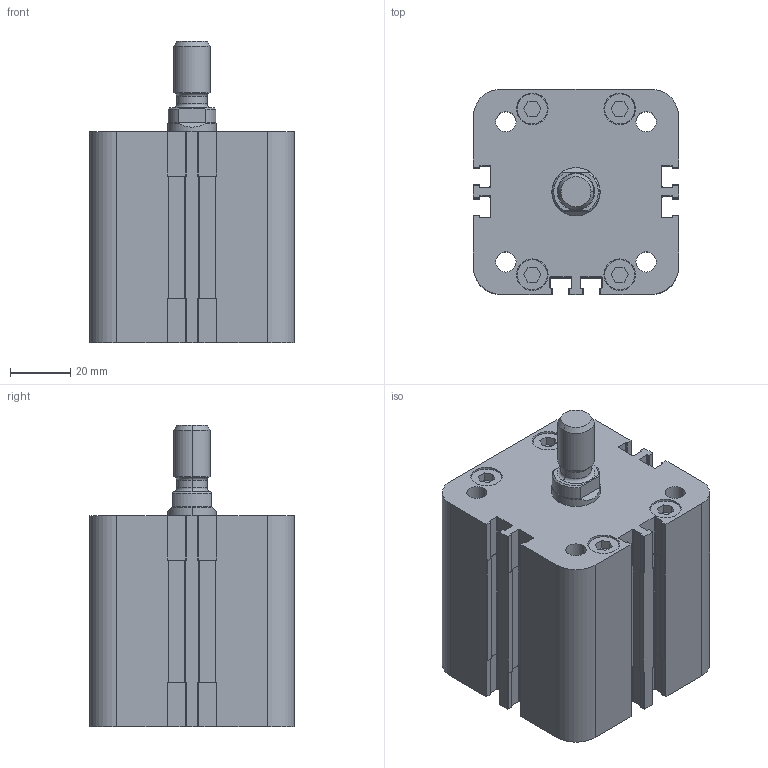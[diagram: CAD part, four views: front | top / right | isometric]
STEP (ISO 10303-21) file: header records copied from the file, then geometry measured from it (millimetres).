
FILE_DESCRIPTION (( 'STEP AP203' ), '1' );
FILE_NAME ('WBM0500025A.step', '2013-04-22T07:06:41', ( '' ), ( '' ), 'SwSTEP 2.0', 'SolidWorks 2012', '' );
FILE_SCHEMA (( 'CONFIG_CONTROL_DESIGN' ));
Length unit declared in the file: millimetre
Products named in the file (1): WBM0500025A
Bounding box: 68 x 68 x 100 mm (x, y, z)
Volume: 294582.5 mm3; surface area: 43373.8 mm2
Topology: 1 solids, 1 shells, 464 faces, 1272 edges, 839 vertices
Faces by surface type: plane 231, cylinder 211, cone 18, torus 4
Entity records: 14984 total; most frequent: CARTESIAN_POINT 2726, DIRECTION 2611, ORIENTED_EDGE 2544, EDGE_CURVE 1272, AXIS2_PLACEMENT_3D 896, VERTEX_POINT 839, VECTOR 819, LINE 819
